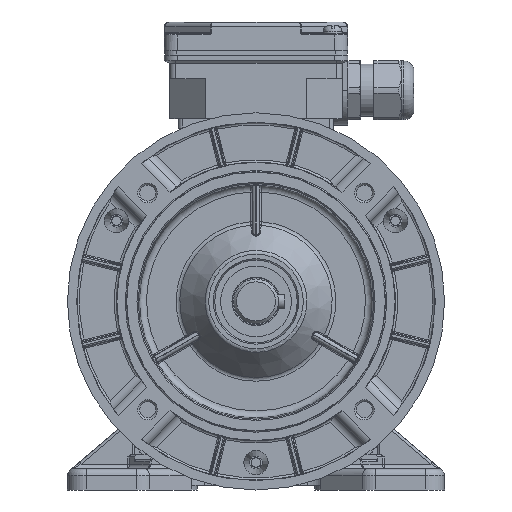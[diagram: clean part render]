
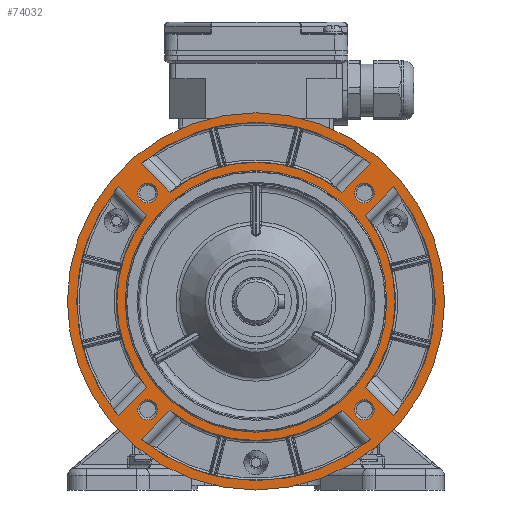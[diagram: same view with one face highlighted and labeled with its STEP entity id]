
A CAD part, left-side view. The second image highlights one B-rep face of the part: STEP entity #74032.
In plain terms, the highlighted planar face has unit normal (-1, 0, 0).
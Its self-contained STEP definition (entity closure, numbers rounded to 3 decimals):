
#5198=LINE('',#112458,#8940);
#5199=LINE('',#112463,#8941);
#5200=LINE('',#112469,#8942);
#5201=LINE('',#112473,#8943);
#5202=LINE('',#112474,#8944);
#5203=LINE('',#112479,#8945);
#5204=LINE('',#112482,#8946);
#5205=LINE('',#112487,#8947);
#8940=VECTOR('',#89356,1000.);
#8941=VECTOR('',#89359,1000.);
#8942=VECTOR('',#89364,1000.);
#8943=VECTOR('',#89367,1000.);
#8944=VECTOR('',#89368,1000.);
#8945=VECTOR('',#89371,1000.);
#8946=VECTOR('',#89374,1000.);
#8947=VECTOR('',#89377,1000.);
#20409=ORIENTED_EDGE('',*,*,#32210,.T.);
#20410=ORIENTED_EDGE('',*,*,#32211,.T.);
#20411=ORIENTED_EDGE('',*,*,#32212,.T.);
#20412=ORIENTED_EDGE('',*,*,#32213,.T.);
#20413=ORIENTED_EDGE('',*,*,#32214,.T.);
#20414=ORIENTED_EDGE('',*,*,#32019,.T.);
#20415=ORIENTED_EDGE('',*,*,#32215,.T.);
#20416=ORIENTED_EDGE('',*,*,#32216,.T.);
#20417=ORIENTED_EDGE('',*,*,#32217,.F.);
#20418=ORIENTED_EDGE('',*,*,#32218,.F.);
#20419=ORIENTED_EDGE('',*,*,#32219,.T.);
#20420=ORIENTED_EDGE('',*,*,#32220,.F.);
#20421=ORIENTED_EDGE('',*,*,#32221,.F.);
#20422=ORIENTED_EDGE('',*,*,#32222,.T.);
#20423=ORIENTED_EDGE('',*,*,#32223,.T.);
#20424=ORIENTED_EDGE('',*,*,#32224,.T.);
#20425=ORIENTED_EDGE('',*,*,#32225,.F.);
#20426=ORIENTED_EDGE('',*,*,#32226,.F.);
#20427=ORIENTED_EDGE('',*,*,#32227,.T.);
#20428=ORIENTED_EDGE('',*,*,#32228,.T.);
#20429=ORIENTED_EDGE('',*,*,#32229,.F.);
#20430=ORIENTED_EDGE('',*,*,#32230,.F.);
#32019=EDGE_CURVE('',#38697,#38697,#42356,.T.);
#32210=EDGE_CURVE('',#38813,#38813,#42412,.F.);
#32211=EDGE_CURVE('',#38814,#38814,#42413,.F.);
#32212=EDGE_CURVE('',#38815,#38815,#42414,.F.);
#32213=EDGE_CURVE('',#38816,#38816,#42415,.F.);
#32214=EDGE_CURVE('',#38817,#38817,#42416,.F.);
#32215=EDGE_CURVE('',#38818,#38819,#5198,.T.);
#32216=EDGE_CURVE('',#38819,#38820,#42417,.T.);
#32217=EDGE_CURVE('',#38821,#38820,#5199,.T.);
#32218=EDGE_CURVE('',#38818,#38821,#42418,.T.);
#32219=EDGE_CURVE('',#38822,#38823,#42419,.T.);
#32220=EDGE_CURVE('',#38824,#38823,#5200,.T.);
#32221=EDGE_CURVE('',#38825,#38824,#42420,.T.);
#32222=EDGE_CURVE('',#38825,#38822,#5201,.T.);
#32223=EDGE_CURVE('',#38826,#38827,#5202,.T.);
#32224=EDGE_CURVE('',#38827,#38828,#42421,.T.);
#32225=EDGE_CURVE('',#38829,#38828,#5203,.T.);
#32226=EDGE_CURVE('',#38826,#38829,#42422,.T.);
#32227=EDGE_CURVE('',#38830,#38831,#5204,.T.);
#32228=EDGE_CURVE('',#38831,#38832,#42423,.T.);
#32229=EDGE_CURVE('',#38833,#38832,#5205,.T.);
#32230=EDGE_CURVE('',#38830,#38833,#42424,.T.);
#38697=VERTEX_POINT('',#111772);
#38813=VERTEX_POINT('',#112449);
#38814=VERTEX_POINT('',#112451);
#38815=VERTEX_POINT('',#112453);
#38816=VERTEX_POINT('',#112455);
#38817=VERTEX_POINT('',#112457);
#38818=VERTEX_POINT('',#112459);
#38819=VERTEX_POINT('',#112460);
#38820=VERTEX_POINT('',#112462);
#38821=VERTEX_POINT('',#112464);
#38822=VERTEX_POINT('',#112467);
#38823=VERTEX_POINT('',#112468);
#38824=VERTEX_POINT('',#112470);
#38825=VERTEX_POINT('',#112472);
#38826=VERTEX_POINT('',#112475);
#38827=VERTEX_POINT('',#112476);
#38828=VERTEX_POINT('',#112478);
#38829=VERTEX_POINT('',#112480);
#38830=VERTEX_POINT('',#112483);
#38831=VERTEX_POINT('',#112484);
#38832=VERTEX_POINT('',#112486);
#38833=VERTEX_POINT('',#112488);
#42356=CIRCLE('',#78356,80.);
#42412=CIRCLE('',#78496,55.5);
#42413=CIRCLE('',#78497,4.2);
#42414=CIRCLE('',#78498,4.2);
#42415=CIRCLE('',#78499,4.2);
#42416=CIRCLE('',#78500,4.2);
#42417=CIRCLE('',#78501,59.);
#42418=CIRCLE('',#78502,76.);
#42419=CIRCLE('',#78503,59.);
#42420=CIRCLE('',#78504,76.);
#42421=CIRCLE('',#78505,59.);
#42422=CIRCLE('',#78506,76.);
#42423=CIRCLE('',#78507,59.);
#42424=CIRCLE('',#78508,76.);
#45387=EDGE_LOOP('',(#20409));
#45388=EDGE_LOOP('',(#20410));
#45389=EDGE_LOOP('',(#20411));
#45390=EDGE_LOOP('',(#20412));
#45391=EDGE_LOOP('',(#20413));
#45392=EDGE_LOOP('',(#20414));
#45393=EDGE_LOOP('',(#20415,#20416,#20417,#20418));
#45394=EDGE_LOOP('',(#20419,#20420,#20421,#20422));
#45395=EDGE_LOOP('',(#20423,#20424,#20425,#20426));
#45396=EDGE_LOOP('',(#20427,#20428,#20429,#20430));
#49025=FACE_BOUND('',#45387,.T.);
#49026=FACE_BOUND('',#45388,.T.);
#49027=FACE_BOUND('',#45389,.T.);
#49028=FACE_BOUND('',#45390,.T.);
#49029=FACE_BOUND('',#45391,.T.);
#49030=FACE_BOUND('',#45392,.T.);
#49031=FACE_BOUND('',#45393,.T.);
#49032=FACE_BOUND('',#45394,.T.);
#49033=FACE_BOUND('',#45395,.T.);
#49034=FACE_BOUND('',#45396,.T.);
#51518=PLANE('',#78495);
#74032=ADVANCED_FACE('',(#49025,#49026,#49027,#49028,#49029,#49030,#49031,
#49032,#49033,#49034),#51518,.T.);
#78356=AXIS2_PLACEMENT_3D('',#111771,#89024,#89025);
#78495=AXIS2_PLACEMENT_3D('',#112447,#89344,#89345);
#78496=AXIS2_PLACEMENT_3D('',#112448,#89346,#89347);
#78497=AXIS2_PLACEMENT_3D('',#112450,#89348,#89349);
#78498=AXIS2_PLACEMENT_3D('',#112452,#89350,#89351);
#78499=AXIS2_PLACEMENT_3D('',#112454,#89352,#89353);
#78500=AXIS2_PLACEMENT_3D('',#112456,#89354,#89355);
#78501=AXIS2_PLACEMENT_3D('',#112461,#89357,#89358);
#78502=AXIS2_PLACEMENT_3D('',#112465,#89360,#89361);
#78503=AXIS2_PLACEMENT_3D('',#112466,#89362,#89363);
#78504=AXIS2_PLACEMENT_3D('',#112471,#89365,#89366);
#78505=AXIS2_PLACEMENT_3D('',#112477,#89369,#89370);
#78506=AXIS2_PLACEMENT_3D('',#112481,#89372,#89373);
#78507=AXIS2_PLACEMENT_3D('',#112485,#89375,#89376);
#78508=AXIS2_PLACEMENT_3D('',#112489,#89378,#89379);
#89024=DIRECTION('',(-1.,0.,0.));
#89025=DIRECTION('',(0.,1.,0.));
#89344=DIRECTION('',(-1.,0.,0.));
#89345=DIRECTION('',(0.,-1.,0.));
#89346=DIRECTION('',(-1.,0.,0.));
#89347=DIRECTION('',(0.,-1.,0.));
#89348=DIRECTION('',(-1.,0.,0.));
#89349=DIRECTION('',(0.,-1.,0.));
#89350=DIRECTION('',(-1.,0.,0.));
#89351=DIRECTION('',(0.,-1.,0.));
#89352=DIRECTION('',(-1.,0.,0.));
#89353=DIRECTION('',(0.,-1.,0.));
#89354=DIRECTION('',(-1.,0.,0.));
#89355=DIRECTION('',(0.,-1.,0.));
#89356=DIRECTION('',(0.,0.707,0.707));
#89357=DIRECTION('',(-1.,0.,0.));
#89358=DIRECTION('',(0.,0.,1.));
#89359=DIRECTION('',(0.,0.707,-0.707));
#89360=DIRECTION('',(-1.,0.,0.));
#89361=DIRECTION('',(0.,0.,1.));
#89362=DIRECTION('',(-1.,0.,0.));
#89363=DIRECTION('',(0.,0.,1.));
#89364=DIRECTION('',(0.,0.707,0.707));
#89365=DIRECTION('',(-1.,0.,0.));
#89366=DIRECTION('',(0.,0.,1.));
#89367=DIRECTION('',(0.,-0.707,0.707));
#89368=DIRECTION('',(0.,0.707,-0.707));
#89369=DIRECTION('',(-1.,0.,0.));
#89370=DIRECTION('',(0.,0.,1.));
#89371=DIRECTION('',(0.,-0.707,-0.707));
#89372=DIRECTION('',(-1.,0.,0.));
#89373=DIRECTION('',(0.,0.,1.));
#89374=DIRECTION('',(0.,-0.707,-0.707));
#89375=DIRECTION('',(-1.,0.,0.));
#89376=DIRECTION('',(0.,0.,1.));
#89377=DIRECTION('',(0.,-0.707,0.707));
#89378=DIRECTION('',(-1.,0.,0.));
#89379=DIRECTION('',(0.,0.,1.));
#111771=CARTESIAN_POINT('',(-44.3,0.,0.));
#111772=CARTESIAN_POINT('',(-44.3,80.,0.));
#112447=CARTESIAN_POINT('',(-44.3,0.,0.));
#112448=CARTESIAN_POINT('',(-44.3,0.,0.));
#112449=CARTESIAN_POINT('',(-44.3,-55.5,0.));
#112450=CARTESIAN_POINT('',(-44.3,-45.962,-45.962));
#112451=CARTESIAN_POINT('',(-44.3,-50.162,-45.962));
#112452=CARTESIAN_POINT('',(-44.3,-45.962,45.962));
#112453=CARTESIAN_POINT('',(-44.3,-50.162,45.962));
#112454=CARTESIAN_POINT('',(-44.3,45.962,45.962));
#112455=CARTESIAN_POINT('',(-44.3,41.762,45.962));
#112456=CARTESIAN_POINT('',(-44.3,45.962,-45.962));
#112457=CARTESIAN_POINT('',(-44.3,41.762,-45.962));
#112458=CARTESIAN_POINT('',(-44.3,-70.057,-60.157));
#112459=CARTESIAN_POINT('',(-44.3,-58.461,-48.562));
#112460=CARTESIAN_POINT('',(-44.3,-46.374,-36.475));
#112461=CARTESIAN_POINT('',(-44.3,0.,0.));
#112462=CARTESIAN_POINT('',(-44.3,-46.374,36.475));
#112463=CARTESIAN_POINT('',(-44.3,-70.057,60.157));
#112464=CARTESIAN_POINT('',(-44.3,-58.461,48.562));
#112465=CARTESIAN_POINT('',(-44.3,0.,0.));
#112466=CARTESIAN_POINT('',(-44.3,0.,0.));
#112467=CARTESIAN_POINT('',(-44.3,36.475,-46.374));
#112468=CARTESIAN_POINT('',(-44.3,-36.475,-46.374));
#112469=CARTESIAN_POINT('',(-44.3,-60.157,-70.057));
#112470=CARTESIAN_POINT('',(-44.3,-48.562,-58.461));
#112471=CARTESIAN_POINT('',(-44.3,0.,0.));
#112472=CARTESIAN_POINT('',(-44.3,48.562,-58.461));
#112473=CARTESIAN_POINT('',(-44.3,60.157,-70.057));
#112474=CARTESIAN_POINT('',(-44.3,-60.157,70.057));
#112475=CARTESIAN_POINT('',(-44.3,-48.562,58.461));
#112476=CARTESIAN_POINT('',(-44.3,-36.475,46.374));
#112477=CARTESIAN_POINT('',(-44.3,0.,0.));
#112478=CARTESIAN_POINT('',(-44.3,36.475,46.374));
#112479=CARTESIAN_POINT('',(-44.3,60.157,70.057));
#112480=CARTESIAN_POINT('',(-44.3,48.562,58.461));
#112481=CARTESIAN_POINT('',(-44.3,0.,0.));
#112482=CARTESIAN_POINT('',(-44.3,70.057,60.157));
#112483=CARTESIAN_POINT('',(-44.3,58.461,48.562));
#112484=CARTESIAN_POINT('',(-44.3,46.374,36.475));
#112485=CARTESIAN_POINT('',(-44.3,0.,0.));
#112486=CARTESIAN_POINT('',(-44.3,46.374,-36.475));
#112487=CARTESIAN_POINT('',(-44.3,70.057,-60.157));
#112488=CARTESIAN_POINT('',(-44.3,58.461,-48.562));
#112489=CARTESIAN_POINT('',(-44.3,0.,0.));
